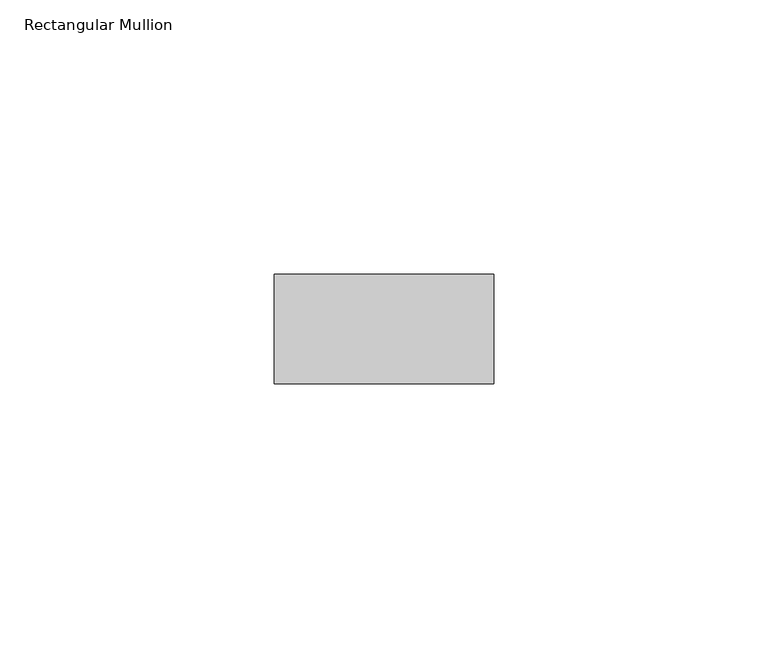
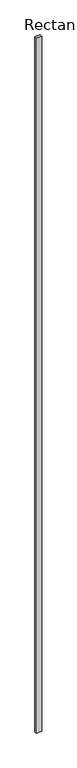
"""IFC4 building model written with IfcOpenShell, lengths in millimetres: member geometry, Rectangular Mullion : RIPA 4x2 cm."""

import ifcopenshell
import ifcopenshell.guid

model = None  # the IFC model being written
_history = None  # IfcOwnerHistory: only IFC2X3 demands one
_inside = {}  # id of a spatial element -> (the spatial element, [elements in it])
_under = {}  # id of a project, library or spatial element -> (it, [spatial elements below it])
_declared = {}  # id of a project -> (the project, [libraries it declares])
_typed = {}  # id of a type object -> (the type object, [elements of that type])
_made_of = {}  # id of a material, layer set ... -> (it, [elements and type objects made of it])


def new_model(schema):
    """Start an empty IFC model of exactly this schema.

    Asked for "IFC4X3", IfcOpenShell would pick the latest addendum, in which some entities
    have other attributes; the version numbers below select the first issue.
    IFC2X3 requires an IfcOwnerHistory on every rooted entity: one is made here for all.
    """
    global model, _history
    if schema == "IFC4X3":
        model = ifcopenshell.file(schema_version=(4, 3, 0, 0))
    else:
        model = ifcopenshell.file(schema=schema)
    _inside.clear()
    _under.clear()
    _declared.clear()
    _typed.clear()
    _made_of.clear()
    _history = None
    if model.schema == "IFC2X3":
        org = make("IfcOrganization", Name="unknown")
        user = make(
            "IfcPersonAndOrganization",
            ThePerson=make("IfcPerson", FamilyName="unknown"),
            TheOrganization=org,
        )
        app = make(
            "IfcApplication",
            ApplicationDeveloper=org,
            Version="unknown",
            ApplicationFullName="unknown",
            ApplicationIdentifier="unknown",
        )
        _history = make(
            "IfcOwnerHistory",
            OwningUser=user,
            OwningApplication=app,
            ChangeAction="ADDED",
            CreationDate=0,
        )
    return model


def make(cls, **values):
    """One entity of the class cls with the attributes given. An attribute that is None is left unset."""
    return model.create_entity(
        cls, **{name: value for name, value in values.items() if value is not None}
    )


def rooted(cls, **values):
    """An entity with a GlobalId (a new one), such as an element, a storey or a relation."""
    return make(cls, GlobalId=ifcopenshell.guid.new(), OwnerHistory=_history, **values)


def si_unit(unit_type, name, prefix=None):
    """IfcSIUnit, for example si_unit("LENGTHUNIT", "METRE", prefix="MILLI")."""
    return make("IfcSIUnit", UnitType=unit_type, Prefix=prefix, Name=name)


def assignment(units):
    """IfcUnitAssignment: the units of a project."""
    return None if units is None else make("IfcUnitAssignment", Units=units)


def point(xyz):
    """IfcCartesianPoint."""
    return None if xyz is None else make("IfcCartesianPoint", Coordinates=xyz)


def direction(xyz):
    """IfcDirection."""
    return None if xyz is None else make("IfcDirection", DirectionRatios=xyz)


def frame(location, z_axis=None, x_axis=None):
    """IfcAxis2Placement3D, a coordinate frame: its origin and axes. An axis left out is left unset."""
    return make(
        "IfcAxis2Placement3D",
        Location=point(location),
        Axis=direction(z_axis),
        RefDirection=direction(x_axis),
    )


def origin():
    """The frame at (0, 0, 0) with its axes left unset."""
    return frame((0.0, 0.0, 0.0))


def place(relative_to, where):
    """IfcLocalPlacement: puts the frame where relative to a parent placement (None: the world)."""
    return make(
        "IfcLocalPlacement", PlacementRelTo=relative_to, RelativePlacement=where
    )


def context(
    kind, dimensions, precision=None, world=None, true_north=None, identifier=None
):
    """IfcGeometricRepresentationContext, for example the 3D "Model" context."""
    return make(
        "IfcGeometricRepresentationContext",
        ContextIdentifier=identifier,
        ContextType=kind,
        CoordinateSpaceDimension=dimensions,
        Precision=precision,
        WorldCoordinateSystem=world,
        TrueNorth=true_north,
    )


def project(units=None, contexts=None):
    """IfcProject with its units and contexts."""
    return rooted(
        "IfcProject",
        Name="project",
        RepresentationContexts=contexts,
        UnitsInContext=assignment(units),
    )


def spatial(cls, under=None, at=None, **own):
    """A site, building, storey or space (cls), placed at a placement, below another one or the project."""
    s = rooted(cls, ObjectPlacement=at, **own)
    if under is not None:
        _under.setdefault(under.id(), (under, []))[1].append(s)
    return s


def polyline(points):
    """IfcPolyline through the points."""
    return make("IfcPolyline", Points=[point(p) for p in points])


def outline(outer, holes=None, kind="AREA"):
    """IfcArbitraryClosedProfileDef: a profile drawn as a closed curve; with holes, ...WithVoids."""
    if holes is None:
        return make("IfcArbitraryClosedProfileDef", ProfileType=kind, OuterCurve=outer)
    return make(
        "IfcArbitraryProfileDefWithVoids",
        ProfileType=kind,
        OuterCurve=outer,
        InnerCurves=holes,
    )


def extrude(swept, where, along, depth):
    """IfcExtrudedAreaSolid: the profile swept, set in the frame where, extruded along a direction by depth."""
    return make(
        "IfcExtrudedAreaSolid",
        SweptArea=swept,
        Position=where,
        ExtrudedDirection=direction(along),
        Depth=depth,
    )


def shape(context_of_items, identifier, shape_type, items):
    """IfcShapeRepresentation: the items that make up one representation, for example the "Body"."""
    return make(
        "IfcShapeRepresentation",
        ContextOfItems=context_of_items,
        RepresentationIdentifier=identifier,
        RepresentationType=shape_type,
        Items=items,
    )


def source(mapping_origin, context_of_items, identifier, shape_type, items):
    """IfcRepresentationMap: a shape defined once, which mapped items show again and again."""
    return make(
        "IfcRepresentationMap",
        MappingOrigin=mapping_origin,
        MappedRepresentation=shape(context_of_items, identifier, shape_type, items),
    )


def transform(
    local_origin,
    x_axis=None,
    y_axis=None,
    z_axis=None,
    scale=None,
    scale2=None,
    scale3=None,
    uniform=True,
):
    """IfcCartesianTransformationOperator3D, or its non-uniform kind. x_axis, y_axis, z_axis: its Axis1, 2, 3."""
    if uniform:
        return make(
            "IfcCartesianTransformationOperator3D",
            Axis1=direction(x_axis),
            Axis2=direction(y_axis),
            LocalOrigin=point(local_origin),
            Scale=scale,
            Axis3=direction(z_axis),
        )
    return make(
        "IfcCartesianTransformationOperator3DnonUniform",
        Axis1=direction(x_axis),
        Axis2=direction(y_axis),
        LocalOrigin=point(local_origin),
        Scale=scale,
        Axis3=direction(z_axis),
        Scale2=scale2,
        Scale3=scale3,
    )


def mapped(mapping_source, mapping_target):
    """IfcMappedItem: shows the shape of a source again, moved by a transform."""
    return make(
        "IfcMappedItem", MappingSource=mapping_source, MappingTarget=mapping_target
    )


def made_of(thing, what):
    """Note that an element or type object is made of a material, layer set ...; save() writes the relation."""
    if what is not None:
        _made_of.setdefault(what.id(), (what, []))[1].append(thing)
    return thing


def element(
    cls,
    number,
    at=None,
    inside=None,
    cuts=None,
    type_object=None,
    material=None,
    context=None,
    identifier="Body",
    shape_type=None,
    held_by="IfcProductDefinitionShape",
    body=None,
    shapes=None,
    **own,
):
    """One element of the class cls, such as IfcWall. Its Tag is "e" and its number.

    at: its placement. inside: the storey or other place that contains it. cuts: it is an
    opening in that element (IfcRelVoidsElement). A single representation is given by context,
    identifier, shape_type and body (its items); several are given by shapes. held_by: the class
    of the entity that holds the representations. save() writes the other relations.
    """
    e = rooted(cls, Tag="e%d" % number, ObjectPlacement=at, **own)
    if body is not None:
        shapes = [shape(context, identifier, shape_type, body)]
    if shapes is not None:
        e.Representation = make(held_by, Representations=shapes)
    if inside is not None:
        _inside.setdefault(inside.id(), (inside, []))[1].append(e)
    if cuts is not None:
        rooted(
            "IfcRelVoidsElement", RelatingBuildingElement=cuts, RelatedOpeningElement=e
        )
    if type_object is not None:
        _typed.setdefault(type_object.id(), (type_object, []))[1].append(e)
    return made_of(e, material)


def aggregate(whole, parts):
    """IfcRelAggregates: a whole, such as a stair, and the parts it consists of."""
    return rooted("IfcRelAggregates", RelatingObject=whole, RelatedObjects=parts)


def save(model, path):
    """Write the relations noted so far, then the file.

    IfcRelAggregates (storeys below a building ...), IfcRelContainedInSpatialStructure (elements
    in a storey), IfcRelDefinesByType, IfcRelAssociatesMaterial and IfcRelDeclares: one each for
    every whole, place, type object, material and project.
    """
    for whole, parts in _under.values():
        aggregate(whole, parts)
    for where, things in _inside.values():
        rooted(
            "IfcRelContainedInSpatialStructure",
            RelatedElements=things,
            RelatingStructure=where,
        )
    for kind, things in _typed.values():
        rooted("IfcRelDefinesByType", RelatedObjects=things, RelatingType=kind)
    for what, things in _made_of.values():
        rooted("IfcRelAssociatesMaterial", RelatedObjects=things, RelatingMaterial=what)
    for by, libraries in _declared.values():
        rooted("IfcRelDeclares", RelatingContext=by, RelatedDefinitions=libraries)
    model.write(path)


def rectangular_mullion_00b2bed0(model_context):
    return source(origin(), model_context, "Body", "SweptSolid", [
        extrude(outline(polyline([(20.0, 0.0), (20.0, -20.0), (-20.0, -20.0), (-20.0, 0.0), (20.0, 0.0)])), frame((0.0, 0.0, -5476.2635613), z_axis=(0.0, 0.0, 1.0), x_axis=(1.0, 0.0, 0.0)), (0.0, 0.0, 1.0), 5476.2635613),
    ])


if __name__ == "__main__":
    model = new_model("IFC4")
    model_context = context("Model", 3, world=origin())
    ifc_project = project(units=[si_unit("LENGTHUNIT", "METRE", prefix="MILLI")], contexts=[model_context])
    site = spatial("IfcSite", under=ifc_project)
    building = spatial("IfcBuilding", under=site)
    placement = place(None, origin())
    rectangular_mullion_shape = rectangular_mullion_00b2bed0(model_context)
    element("IfcMember", 1, ObjectType="Rectangular Mullion : RIPA 4x2 cm", at=placement, inside=building, context=model_context, shape_type="MappedRepresentation", body=[
        mapped(rectangular_mullion_shape, transform((0.0, 0.0, 0.0), x_axis=(1.0, 0.0, 0.0), y_axis=(0.0, 1.0, 0.0), z_axis=(0.0, 0.0, 1.0))),
    ])
    save(model, "model.ifc")
